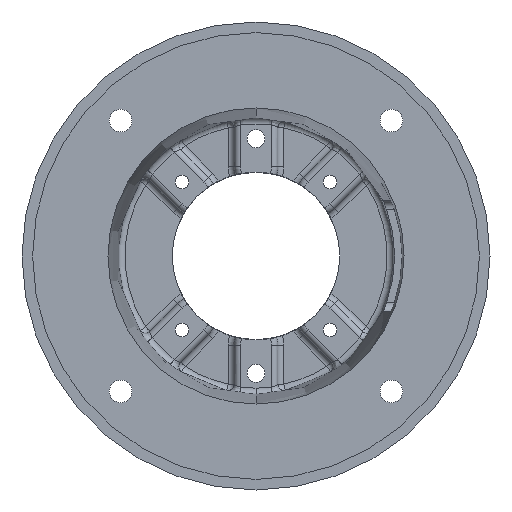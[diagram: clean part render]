
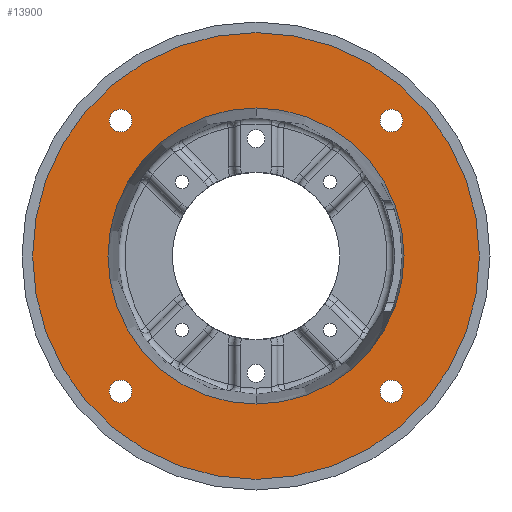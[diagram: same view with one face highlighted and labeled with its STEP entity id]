
A CAD part, front view. The second image highlights one B-rep face of the part: STEP entity #13900.
In plain terms, the highlighted planar face has unit normal (0, -1, 0).
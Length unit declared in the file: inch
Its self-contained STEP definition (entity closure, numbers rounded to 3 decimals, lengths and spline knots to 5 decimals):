
#28 = AXIS2_PLACEMENT_3D ( 'NONE', #2993, #10918, #4141 ) ;
#73 = DIRECTION ( 'NONE',  ( 0., -1., 0. ) ) ;
#128 = CARTESIAN_POINT ( 'NONE',  ( 0., 0.18, 0. ) ) ;
#142 = VERTEX_POINT ( 'NONE', #7420 ) ;
#263 = CARTESIAN_POINT ( 'NONE',  ( 0., 0.18, -3.47973 ) ) ;
#561 = ORIENTED_EDGE ( 'NONE', *, *, #8334, .F. ) ;
#683 = CIRCLE ( 'NONE', #3274, 3.47973 ) ;
#831 = ORIENTED_EDGE ( 'NONE', *, *, #11084, .T. ) ;
#832 = VERTEX_POINT ( 'NONE', #263 ) ;
#896 = DIRECTION ( 'NONE',  ( 0., 0., -1. ) ) ;
#955 = DIRECTION ( 'NONE',  ( 0., -1., 0. ) ) ;
#967 = AXIS2_PLACEMENT_3D ( 'NONE', #10365, #3545, #11463 ) ;
#1241 = EDGE_CURVE ( 'NONE', #11262, #13461, #7571, .T. ) ;
#1330 = CARTESIAN_POINT ( 'NONE',  ( 3.18198, 0.18, -3.44761 ) ) ;
#1417 = FACE_OUTER_BOUND ( 'NONE', #14338, .T. ) ;
#1621 = EDGE_CURVE ( 'NONE', #2257, #13785, #5051, .T. ) ;
#1725 = EDGE_CURVE ( 'NONE', #14317, #2405, #12569, .T. ) ;
#1785 = FACE_BOUND ( 'NONE', #13656, .T. ) ;
#1888 = AXIS2_PLACEMENT_3D ( 'NONE', #4988, #12811, #6158 ) ;
#2128 = CIRCLE ( 'NONE', #1888, 0.26562 ) ;
#2189 = DIRECTION ( 'NONE',  ( 0., -1., 0. ) ) ;
#2257 = VERTEX_POINT ( 'NONE', #11606 ) ;
#2405 = VERTEX_POINT ( 'NONE', #9780 ) ;
#2610 = ORIENTED_EDGE ( 'NONE', *, *, #6748, .F. ) ;
#2851 = CARTESIAN_POINT ( 'NONE',  ( 0., 0.18, 0. ) ) ;
#2882 = EDGE_LOOP ( 'NONE', ( #11719, #2610 ) ) ;
#2900 = CIRCLE ( 'NONE', #7552, 5.2505 ) ;
#2993 = CARTESIAN_POINT ( 'NONE',  ( -3.18198, 0.18, 3.18198 ) ) ;
#3014 = AXIS2_PLACEMENT_3D ( 'NONE', #6943, #73, #8113 ) ;
#3107 = CARTESIAN_POINT ( 'NONE',  ( 0., 0.18, 0. ) ) ;
#3274 = AXIS2_PLACEMENT_3D ( 'NONE', #2851, #10766, #3987 ) ;
#3545 = DIRECTION ( 'NONE',  ( 0., -1., 0. ) ) ;
#3599 = ORIENTED_EDGE ( 'NONE', *, *, #10206, .F. ) ;
#3731 = ORIENTED_EDGE ( 'NONE', *, *, #1621, .F. ) ;
#3767 = EDGE_CURVE ( 'NONE', #5906, #14146, #2128, .T. ) ;
#3840 = DIRECTION ( 'NONE',  ( 0., -1., 0. ) ) ;
#3864 = AXIS2_PLACEMENT_3D ( 'NONE', #9038, #2189, #10136 ) ;
#3987 = DIRECTION ( 'NONE',  ( 0., 0., -1. ) ) ;
#3989 = EDGE_CURVE ( 'NONE', #13785, #2257, #8760, .T. ) ;
#4141 = DIRECTION ( 'NONE',  ( 0., 0., -1. ) ) ;
#4185 = CIRCLE ( 'NONE', #13380, 0.26562 ) ;
#4240 = DIRECTION ( 'NONE',  ( 0., 0., -1. ) ) ;
#4304 = CARTESIAN_POINT ( 'NONE',  ( 3.18198, 0.18, 3.44761 ) ) ;
#4460 = FACE_BOUND ( 'NONE', #4475, .T. ) ;
#4475 = EDGE_LOOP ( 'NONE', ( #11292, #561 ) ) ;
#4903 = CARTESIAN_POINT ( 'NONE',  ( 0., 0.18, -5.2505 ) ) ;
#4988 = CARTESIAN_POINT ( 'NONE',  ( 3.18198, 0.18, -3.18198 ) ) ;
#5004 = VERTEX_POINT ( 'NONE', #7135 ) ;
#5051 = CIRCLE ( 'NONE', #28, 0.26562 ) ;
#5225 = AXIS2_PLACEMENT_3D ( 'NONE', #128, #11592, #13851 ) ;
#5471 = EDGE_CURVE ( 'NONE', #142, #8311, #4185, .T. ) ;
#5561 = ORIENTED_EDGE ( 'NONE', *, *, #1241, .T. ) ;
#5665 = EDGE_LOOP ( 'NONE', ( #3599, #11591 ) ) ;
#5712 = CARTESIAN_POINT ( 'NONE',  ( 0., 0.18, 5.2505 ) ) ;
#5906 = VERTEX_POINT ( 'NONE', #6350 ) ;
#6158 = DIRECTION ( 'NONE',  ( 0., 0., -1. ) ) ;
#6350 = CARTESIAN_POINT ( 'NONE',  ( 3.18198, 0.18, -2.91636 ) ) ;
#6564 = DIRECTION ( 'NONE',  ( 0., 0., -1. ) ) ;
#6748 = EDGE_CURVE ( 'NONE', #8311, #142, #12594, .T. ) ;
#6786 = DIRECTION ( 'NONE',  ( 0., -1., 0. ) ) ;
#6943 = CARTESIAN_POINT ( 'NONE',  ( 3.18198, 0.18, -3.18198 ) ) ;
#7135 = CARTESIAN_POINT ( 'NONE',  ( 0., 0.18, 3.47973 ) ) ;
#7420 = CARTESIAN_POINT ( 'NONE',  ( 3.18198, 0.18, 2.91636 ) ) ;
#7528 = FACE_BOUND ( 'NONE', #2882, .T. ) ;
#7552 = AXIS2_PLACEMENT_3D ( 'NONE', #3107, #11021, #4240 ) ;
#7571 = CIRCLE ( 'NONE', #5225, 5.2505 ) ;
#7789 = DIRECTION ( 'NONE',  ( 0., 1., 0. ) ) ;
#7842 = CARTESIAN_POINT ( 'NONE',  ( 3.18198, 0.18, 3.18198 ) ) ;
#7913 = CIRCLE ( 'NONE', #8495, 3.47973 ) ;
#8113 = DIRECTION ( 'NONE',  ( 0., 0., -1. ) ) ;
#8289 = ORIENTED_EDGE ( 'NONE', *, *, #13130, .T. ) ;
#8311 = VERTEX_POINT ( 'NONE', #4304 ) ;
#8334 = EDGE_CURVE ( 'NONE', #2405, #14317, #13700, .T. ) ;
#8419 = EDGE_CURVE ( 'NONE', #832, #5004, #683, .T. ) ;
#8495 = AXIS2_PLACEMENT_3D ( 'NONE', #14351, #7789, #896 ) ;
#8644 = CIRCLE ( 'NONE', #3014, 0.26562 ) ;
#8760 = CIRCLE ( 'NONE', #8792, 0.26562 ) ;
#8792 = AXIS2_PLACEMENT_3D ( 'NONE', #13415, #6786, #14507 ) ;
#8973 = DIRECTION ( 'NONE',  ( 0., 0., -1. ) ) ;
#9038 = CARTESIAN_POINT ( 'NONE',  ( -3.18198, 0.18, -3.18198 ) ) ;
#9780 = CARTESIAN_POINT ( 'NONE',  ( -3.18198, 0.18, -2.91636 ) ) ;
#10136 = DIRECTION ( 'NONE',  ( 0., 0., -1. ) ) ;
#10206 = EDGE_CURVE ( 'NONE', #14146, #5906, #8644, .T. ) ;
#10365 = CARTESIAN_POINT ( 'NONE',  ( -3.18198, 0.18, -3.18198 ) ) ;
#10494 = FACE_BOUND ( 'NONE', #5665, .T. ) ;
#10593 = CARTESIAN_POINT ( 'NONE',  ( -3.18198, 0.18, 2.91636 ) ) ;
#10636 = CARTESIAN_POINT ( 'NONE',  ( 3.18198, 0.18, 3.18198 ) ) ;
#10672 = EDGE_LOOP ( 'NONE', ( #12261, #8289 ) ) ;
#10766 = DIRECTION ( 'NONE',  ( 0., 1., 0. ) ) ;
#10918 = DIRECTION ( 'NONE',  ( 0., -1., 0. ) ) ;
#11021 = DIRECTION ( 'NONE',  ( 0., -1., 0. ) ) ;
#11084 = EDGE_CURVE ( 'NONE', #13461, #11262, #2900, .T. ) ;
#11262 = VERTEX_POINT ( 'NONE', #5712 ) ;
#11292 = ORIENTED_EDGE ( 'NONE', *, *, #1725, .F. ) ;
#11463 = DIRECTION ( 'NONE',  ( 0., 0., -1. ) ) ;
#11591 = ORIENTED_EDGE ( 'NONE', *, *, #3767, .F. ) ;
#11592 = DIRECTION ( 'NONE',  ( 0., -1., 0. ) ) ;
#11606 = CARTESIAN_POINT ( 'NONE',  ( -3.18198, 0.18, 3.44761 ) ) ;
#11719 = ORIENTED_EDGE ( 'NONE', *, *, #5471, .F. ) ;
#11750 = DIRECTION ( 'NONE',  ( 0., 0., -1. ) ) ;
#12119 = PLANE ( 'NONE',  #12815 ) ;
#12261 = ORIENTED_EDGE ( 'NONE', *, *, #8419, .T. ) ;
#12569 = CIRCLE ( 'NONE', #3864, 0.26562 ) ;
#12594 = CIRCLE ( 'NONE', #14213, 0.26562 ) ;
#12811 = DIRECTION ( 'NONE',  ( 0., -1., 0. ) ) ;
#12815 = AXIS2_PLACEMENT_3D ( 'NONE', #14251, #13196, #6564 ) ;
#12854 = CARTESIAN_POINT ( 'NONE',  ( -3.18198, 0.18, -3.44761 ) ) ;
#13053 = FACE_BOUND ( 'NONE', #10672, .T. ) ;
#13130 = EDGE_CURVE ( 'NONE', #5004, #832, #7913, .T. ) ;
#13196 = DIRECTION ( 'NONE',  ( 0., -1., 0. ) ) ;
#13380 = AXIS2_PLACEMENT_3D ( 'NONE', #7842, #955, #8973 ) ;
#13415 = CARTESIAN_POINT ( 'NONE',  ( -3.18198, 0.18, 3.18198 ) ) ;
#13461 = VERTEX_POINT ( 'NONE', #4903 ) ;
#13656 = EDGE_LOOP ( 'NONE', ( #13852, #3731 ) ) ;
#13700 = CIRCLE ( 'NONE', #967, 0.26562 ) ;
#13785 = VERTEX_POINT ( 'NONE', #10593 ) ;
#13851 = DIRECTION ( 'NONE',  ( 0., 0., -1. ) ) ;
#13852 = ORIENTED_EDGE ( 'NONE', *, *, #3989, .F. ) ;
#13900 = ADVANCED_FACE ( 'NONE', ( #1785, #7528, #10494, #4460, #1417, #13053 ), #12119, .T. ) ;
#14146 = VERTEX_POINT ( 'NONE', #1330 ) ;
#14213 = AXIS2_PLACEMENT_3D ( 'NONE', #10636, #3840, #11750 ) ;
#14251 = CARTESIAN_POINT ( 'NONE',  ( 0., 0.18, 0. ) ) ;
#14317 = VERTEX_POINT ( 'NONE', #12854 ) ;
#14338 = EDGE_LOOP ( 'NONE', ( #831, #5561 ) ) ;
#14351 = CARTESIAN_POINT ( 'NONE',  ( 0., 0.18, 0. ) ) ;
#14507 = DIRECTION ( 'NONE',  ( 0., 0., -1. ) ) ;
